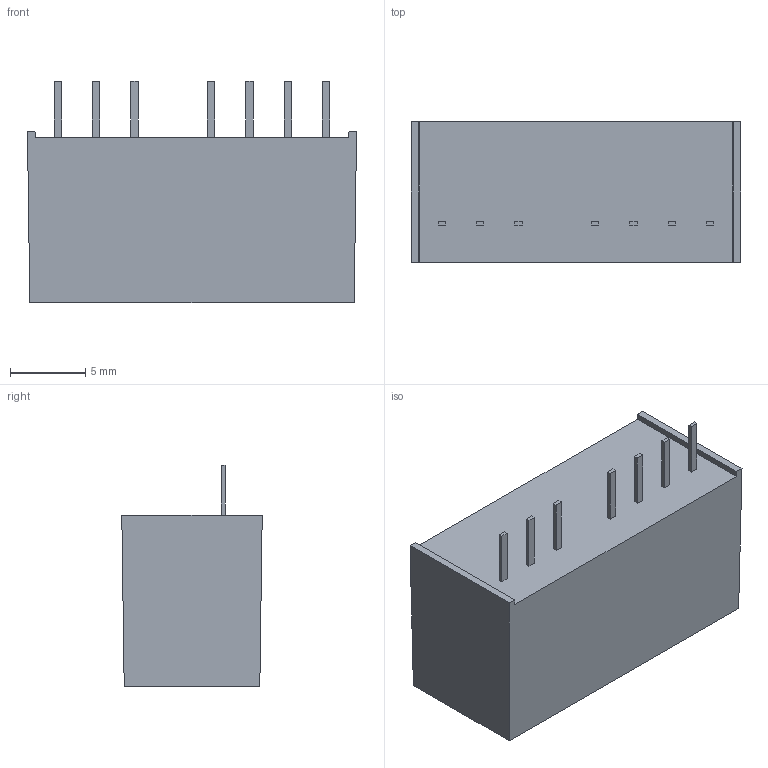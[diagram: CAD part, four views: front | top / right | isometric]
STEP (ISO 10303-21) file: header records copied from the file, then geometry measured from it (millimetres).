
FILE_DESCRIPTION(/* description */ (''),/* implementation_level */ '2;1');
FILE_NAME(/* name */ 'C:\Users\CALLIOPE\Documents\Inventor\MCW1000\3D\X2\591689C05C3A5BF8\X0\\型錄用-STEP檔\MCW1000+MCWI02+MCW03+MCWI03+MCWI05.stp',/* time_stamp */ '2015-03-13T08:31:37+08:00',/* author */ ('CALLIOPE'),/* organization */ (''),/* preprocessor_version */ 'ST-DEVELOPER v15.6',/* originating_system */ 'Autodesk Inventor 2015',/* authorisation */ '');
FILE_SCHEMA (('AUTOMOTIVE_DESIGN { 1 0 10303 214 3 1 1 }'));
Length unit declared in the file: millimetre
Products named in the file (1): MCW1000+MCWI02+MCW03+MCWI03+MCWI05
Bounding box: 21.8 x 9.3 x 14.65 mm (x, y, z)
Volume: 2171.5 mm3; surface area: 1123.9 mm2
Topology: 1 solids, 1 shells, 45 faces, 108 edges, 72 vertices
Faces by surface type: plane 45
Entity records: 1306 total; most frequent: CARTESIAN_POINT 226, ORIENTED_EDGE 216, DIRECTION 200, LINE 108, VECTOR 108, EDGE_CURVE 108, VERTEX_POINT 72, EDGE_LOOP 52
